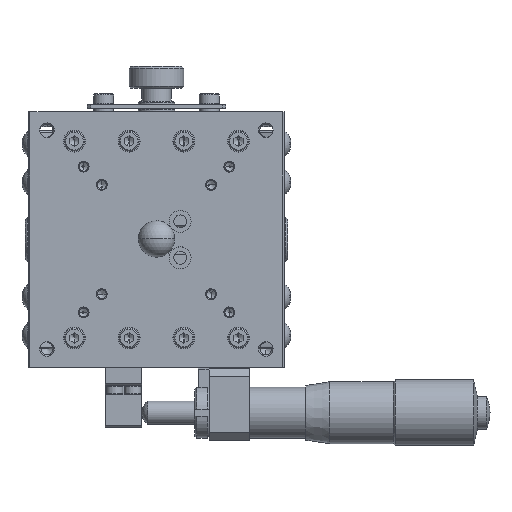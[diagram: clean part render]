
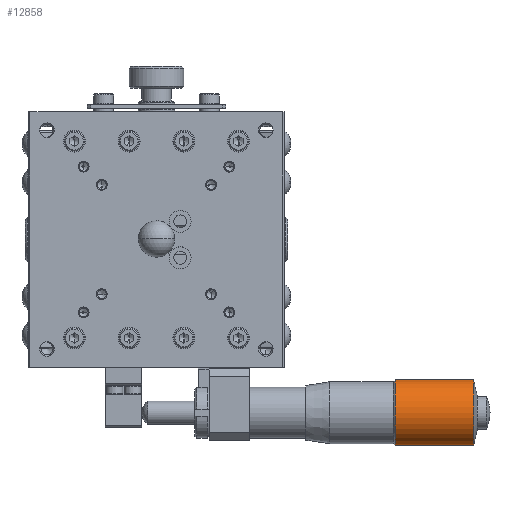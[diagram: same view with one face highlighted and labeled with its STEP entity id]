
A CAD part, top view. The second image highlights one B-rep face of the part: STEP entity #12858.
In plain terms, the highlighted cylindrical face has radius 9 mm (diameter 18 mm), a partial arc.
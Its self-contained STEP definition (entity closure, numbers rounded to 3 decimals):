
#12853 = EDGE_CURVE ( 'NONE', #13042, #12951, #29263, .T. ) ;
#12858 = ADVANCED_FACE ( 'NONE', ( #29248 ), #29374, .T. ) ;
#12915 = VERTEX_POINT ( 'NONE', #29475 ) ;
#12927 = ORIENTED_EDGE ( 'NONE', *, *, #12979, .T. ) ;
#12931 = ORIENTED_EDGE ( 'NONE', *, *, #13036, .F. ) ;
#12951 = VERTEX_POINT ( 'NONE', #29543 ) ;
#12953 = ORIENTED_EDGE ( 'NONE', *, *, #12853, .T. ) ;
#12979 = EDGE_CURVE ( 'NONE', #12951, #12983, #29614, .T. ) ;
#12983 = VERTEX_POINT ( 'NONE', #29605 ) ;
#13036 = EDGE_CURVE ( 'NONE', #12915, #12983, #29733, .T. ) ;
#13040 = EDGE_LOOP ( 'NONE', ( #12953, #12927, #12931, #13054 ) ) ;
#13042 = VERTEX_POINT ( 'NONE', #29717 ) ;
#13054 = ORIENTED_EDGE ( 'NONE', *, *, #13055, .F. ) ;
#13055 = EDGE_CURVE ( 'NONE', #13042, #12915, #29701, .T. ) ;
#29248 = FACE_OUTER_BOUND ( 'NONE', #13040, .T. ) ;
#29257 = DIRECTION ( 'NONE',  ( 0., -1., 0. ) ) ;
#29259 = DIRECTION ( 'NONE',  ( -1., 0., 0. ) ) ;
#29260 = CARTESIAN_POINT ( 'NONE',  ( 91., 0., 0. ) ) ;
#29262 = AXIS2_PLACEMENT_3D ( 'NONE', #29260, #29259, #29257 ) ;
#29263 = CIRCLE ( 'NONE', #29262, 9. ) ;
#29368 = DIRECTION ( 'NONE',  ( 0., -1., 0. ) ) ;
#29370 = DIRECTION ( 'NONE',  ( -1., 0., 0. ) ) ;
#29372 = CARTESIAN_POINT ( 'NONE',  ( -2.669, 0., 0. ) ) ;
#29373 = AXIS2_PLACEMENT_3D ( 'NONE', #29372, #29370, #29368 ) ;
#29374 = CYLINDRICAL_SURFACE ( 'NONE', #29373, 9. ) ;
#29475 = CARTESIAN_POINT ( 'NONE',  ( 69.5, -9., 0. ) ) ;
#29543 = CARTESIAN_POINT ( 'NONE',  ( 91., 9., 0. ) ) ;
#29605 = CARTESIAN_POINT ( 'NONE',  ( 69.5, 9., 0. ) ) ;
#29608 = DIRECTION ( 'NONE',  ( -1., 0., 0. ) ) ;
#29610 = VECTOR ( 'NONE', #29608, 1000. ) ;
#29612 = CARTESIAN_POINT ( 'NONE',  ( -2.669, 9., 0. ) ) ;
#29614 = LINE ( 'NONE', #29612, #29610 ) ;
#29697 = DIRECTION ( 'NONE',  ( -1., 0., 0. ) ) ;
#29699 = VECTOR ( 'NONE', #29697, 1000. ) ;
#29700 = CARTESIAN_POINT ( 'NONE',  ( -2.669, -9., 0. ) ) ;
#29701 = LINE ( 'NONE', #29700, #29699 ) ;
#29717 = CARTESIAN_POINT ( 'NONE',  ( 91., -9., 0. ) ) ;
#29728 = DIRECTION ( 'NONE',  ( 0., -1., 0. ) ) ;
#29731 = DIRECTION ( 'NONE',  ( -1., 0., 0. ) ) ;
#29732 = AXIS2_PLACEMENT_3D ( 'NONE', #29744, #29731, #29728 ) ;
#29733 = CIRCLE ( 'NONE', #29732, 9. ) ;
#29744 = CARTESIAN_POINT ( 'NONE',  ( 69.5, 0., 0. ) ) ;
